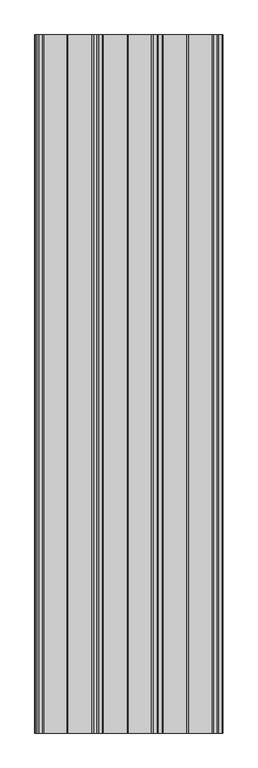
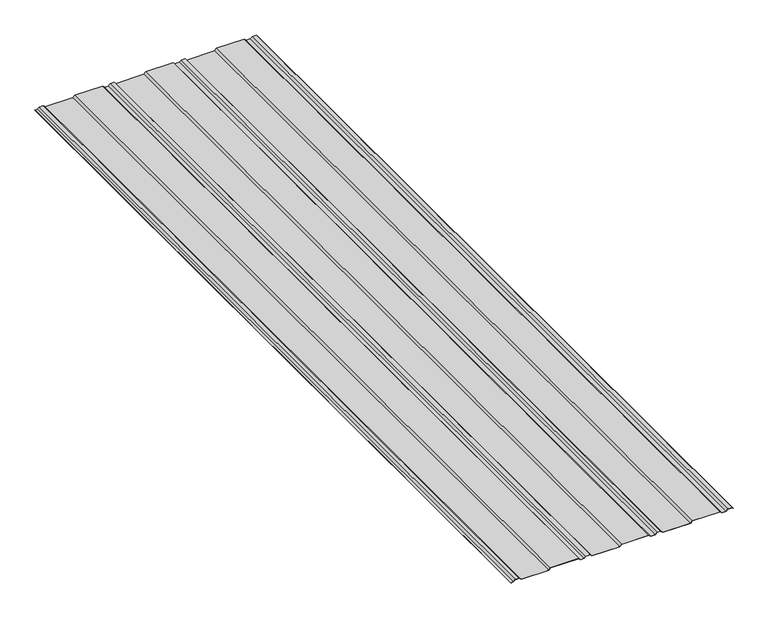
"""IFC4 building model written with IfcOpenShell, lengths in millimetres: proxy geometry, AQUAPLAST - W-Panel : RR 32 BRĄZ."""

from ifc_helpers import new_model, si_unit, frame, origin, place, context, project, spatial, polyline, outline, extrude, source, transform, mapped, element, save


def specialty_equipment_948620e5(model_context):
    return source(origin(), model_context, "Body", "SweptSolid", [
        extrude(outline(polyline([(0.0, -587.9438713), (10.0, -577.9438713), (10.0, -556.226294), (0.0, -546.226294), (0.0, -397.6417131), (10.0, -387.6417131), (10.0, -235.9241358), (0.0, -225.9241358), (0.0, -205.9241358), (10.0, -195.9241358), (10.0, -174.2065585), (0.0, -164.2065585), (0.0, -12.520379), (10.0, -2.520379), (10.0, 144.1971983), (0.0, 154.1971983), (0.0, 179.1971983), (10.0, 189.1971983), (10.0, 208.9370534), (0.0, 218.9370534), (0.0, 368.9370534), (10.0, 378.9370534), (10.0, 529.1135982), (0.5, 538.6135982), (0.5, 560.9464217), (10.5, 570.9464217), (10.5, 593.0782125), (4.6782125, 598.9), (5.4643393, 598.6138733), (11.0, 593.0782125), (11.0, 570.9464217), (1.0, 560.9464217), (1.0, 538.820705), (10.5, 529.320705), (10.5, 378.7299466), (0.5, 368.7299466), (0.5, 219.1441602), (10.5, 209.1441602), (10.5, 188.9900915), (0.5, 178.9900915), (0.5, 154.404305), (10.5, 144.404305), (10.5, -2.7274858), (0.5, -12.7274858), (0.5, -163.9994518), (10.5, -173.9994518), (10.5, -196.1312426), (0.5, -206.1312426), (0.5, -225.717029), (10.5, -235.717029), (10.5, -387.8488199), (0.5, -397.8488199), (0.5, -546.0191872), (10.5, -556.0191872), (10.5, -578.150978), (0.5, -588.150978), (0.5, -601.385926), (0.0, -602.1), (0.0, -587.9438713)])), frame((0.0, 0.0, 0.0), z_axis=(0.0, 1.0, 0.0), x_axis=(0.0, 0.0, 1.0)), (0.0, 0.0, 1.0), 4454.0),
    ])


if __name__ == "__main__":
    model = new_model("IFC4")
    model_context = context("Model", 3, world=origin())
    ifc_project = project(units=[si_unit("LENGTHUNIT", "METRE", prefix="MILLI")], contexts=[model_context])
    site = spatial("IfcSite", under=ifc_project)
    building = spatial("IfcBuilding", under=site)
    placement = place(None, origin())
    specialty_equipment_shape = specialty_equipment_948620e5(model_context)
    element("IfcBuildingElementProxy", 1, Name="AQUAPLAST - W-Panel : RR 32 BRĄZ", ObjectType="AQUAPLAST - W-Panel : RR 32 BRĄZ", at=placement, inside=building, context=model_context, shape_type="MappedRepresentation", body=[
        mapped(specialty_equipment_shape, transform((0.0, 0.0, 0.0), x_axis=(1.0, 0.0, 0.0), y_axis=(0.0, 1.0, 0.0), z_axis=(0.0, 0.0, 1.0))),
    ])
    save(model, "model.ifc")
